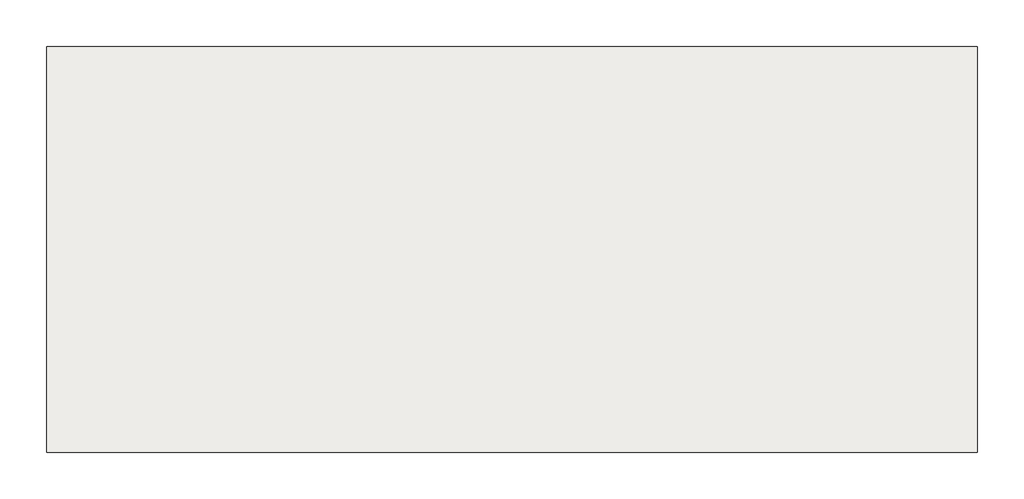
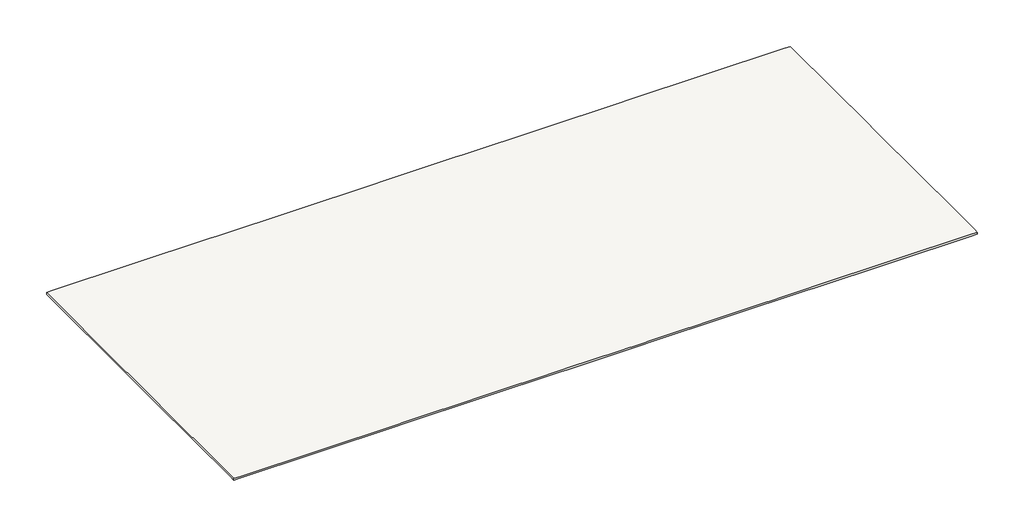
# One storey: 1 slab.
"""IFC4 building model written with IfcOpenShell, lengths in millimetres."""

from ifc_helpers import new_model, si_unit, origin, place, context, project, spatial, faceted_brep, element, save

model = new_model("IFC4")

# Units and contexts
model_context = context("Model", 3, world=origin())
ifc_project = project(units=[si_unit("LENGTHUNIT", "METRE", prefix="MILLI")], contexts=[model_context])

# Site, building, storey
site = spatial("IfcSite", under=ifc_project)
building = spatial("IfcBuilding", under=site)
storey = spatial("IfcBuildingStorey", under=building, Name="标高 1", Elevation=0.0)

# Slab
placement = place(None, origin())
element("IfcSlab", 1, ObjectType="常规 - 80mm", at=placement, inside=storey, context=model_context, shape_type="Brep", body=[
    faceted_brep([(16204.7953119, 5435.2702941, -80.0), (16204.7953119, 5195.2702941, -80.0), (16204.7953119, -564.7297059, -80.0), (16204.7953119, -804.7297059, -80.0), (16204.7953119, -2564.7297059, -80.0), (16204.7953119, -2804.7297059, -80.0), (16204.7953119, -8564.7297059, -80.0), (16204.7953119, -8804.7297059, -80.0), (15964.7953119, -8804.7297059, -80.0), (9004.7953119, -8804.7297059, -80.0), (8764.7953119, -8804.7297059, -80.0), (1804.7953119, -8804.7297059, -80.0), (1564.7953119, -8804.7297059, -80.0), (-1795.2046881, -8804.7297059, -80.0), (-2035.2046881, -8804.7297059, -80.0), (-8995.2046881, -8804.7297059, -80.0), (-9235.2046881, -8804.7297059, -80.0), (-16195.2046881, -8804.7297059, -80.0), (-16435.2046881, -8804.7297059, -80.0), (-16435.2046881, -8564.7297059, -80.0), (-16435.2046881, -2804.7297059, -80.0), (-16435.2046881, -2564.7297059, -80.0), (-16435.2046881, -804.7297059, -80.0), (-16435.2046881, -564.7297059, -80.0), (-16435.2046881, 5195.2702941, -80.0), (-16435.2046881, 5435.2702941, -80.0), (-16195.2046881, 5435.2702941, -80.0), (-9235.2046881, 5435.2702941, -80.0), (-8995.2046881, 5435.2702941, -80.0), (-2035.2046881, 5435.2702941, -80.0), (-1795.2046881, 5435.2702941, -80.0), (1564.7953119, 5435.2702941, -80.0), (1804.7953119, 5435.2702941, -80.0), (8764.7953119, 5435.2702941, -80.0), (9004.7953119, 5435.2702941, -80.0), (15964.7953119, 5435.2702941, -80.0), (16204.7953119, 5435.2702941, 0.0), (15964.7953119, 5435.2702941, 0.0), (9004.7953119, 5435.2702941, 0.0), (8764.7953119, 5435.2702941, 0.0), (1804.7953119, 5435.2702941, 0.0), (1564.7953119, 5435.2702941, 0.0), (-1795.2046881, 5435.2702941, 0.0), (-2035.2046881, 5435.2702941, 0.0), (-8995.2046881, 5435.2702941, 0.0), (-9235.2046881, 5435.2702941, 0.0), (-16195.2046881, 5435.2702941, 0.0), (-16435.2046881, 5435.2702941, 0.0), (-16435.2046881, 5195.2702941, 0.0), (-16435.2046881, -564.7297059, 0.0), (-16435.2046881, -804.7297059, 0.0), (-16435.2046881, -2564.7297059, 0.0), (-16435.2046881, -2804.7297059, 0.0), (-16435.2046881, -8564.7297059, 0.0), (-16435.2046881, -8804.7297059, 0.0), (-16195.2046881, -8804.7297059, 0.0), (-9235.2046881, -8804.7297059, 0.0), (-8995.2046881, -8804.7297059, 0.0), (-2035.2046881, -8804.7297059, 0.0), (-1795.2046881, -8804.7297059, 0.0), (1564.7953119, -8804.7297059, 0.0), (1804.7953119, -8804.7297059, 0.0), (8764.7953119, -8804.7297059, 0.0), (9004.7953119, -8804.7297059, 0.0), (15964.7953119, -8804.7297059, 0.0), (16204.7953119, -8804.7297059, 0.0), (16204.7953119, -8564.7297059, 0.0), (16204.7953119, -2804.7297059, 0.0), (16204.7953119, -2564.7297059, 0.0), (16204.7953119, -804.7297059, 0.0), (16204.7953119, -564.7297059, 0.0), (16204.7953119, 5195.2702941, 0.0)], [[[0, 1, 2, 3, 4, 5, 6, 7, 8, 9, 10, 11, 12, 13, 14, 15, 16, 17, 18, 19, 20, 21, 22, 23, 24, 25, 26, 27, 28, 29, 30, 31, 32, 33, 34, 35]], [[36, 37, 38, 39, 40, 41, 42, 43, 44, 45, 46, 47, 48, 49, 50, 51, 52, 53, 54, 55, 56, 57, 58, 59, 60, 61, 62, 63, 64, 65, 66, 67, 68, 69, 70, 71]], [[7, 6, 5, 4, 3, 2, 1, 0, 36, 71, 70, 69, 68, 67, 66, 65]], [[18, 17, 16, 15, 14, 13, 12, 11, 10, 9, 8, 7, 65, 64, 63, 62, 61, 60, 59, 58, 57, 56, 55, 54]], [[25, 24, 23, 22, 21, 20, 19, 18, 54, 53, 52, 51, 50, 49, 48, 47]], [[0, 35, 34, 33, 32, 31, 30, 29, 28, 27, 26, 25, 47, 46, 45, 44, 43, 42, 41, 40, 39, 38, 37, 36]]]),
])

save(model, "model.ifc")
